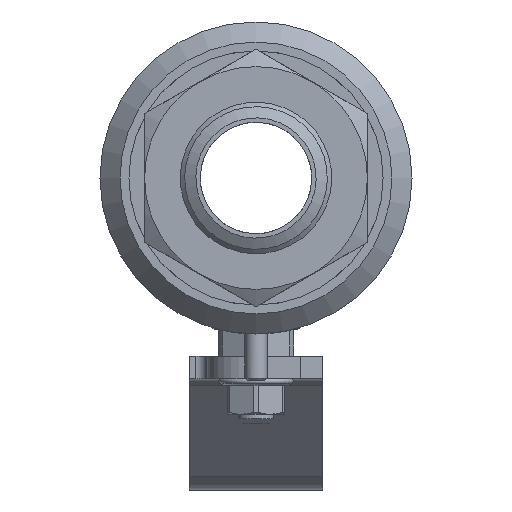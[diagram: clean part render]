
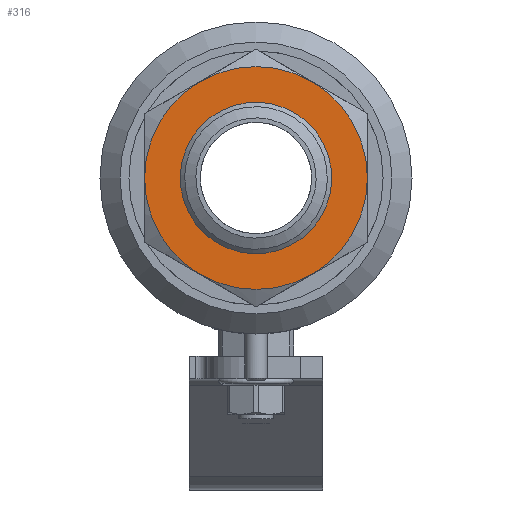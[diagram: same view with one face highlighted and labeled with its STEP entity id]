
A CAD part, left-side view. The second image highlights one B-rep face of the part: STEP entity #316.
In plain terms, the highlighted planar face has unit normal (-1, 0, 0).
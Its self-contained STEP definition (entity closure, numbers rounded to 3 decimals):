
#316=ADVANCED_FACE('',(#2001,#2003),#2005,.T.);
#2001=FACE_BOUND('',#2002,.T.);
#2002=EDGE_LOOP('',(#3292));
#2003=FACE_OUTER_BOUND('',#2004,.T.);
#2004=EDGE_LOOP('',(#3293,#3294,#3295,#3296,#3297,#3298));
#2005=PLANE('',#2006);
#2006=AXIS2_PLACEMENT_3D('',#2007,#2008,#2009);
#2007=CARTESIAN_POINT('',(-79.8,0.,0.));
#2008=DIRECTION('',(-1.,0.,0.));
#2009=DIRECTION('',(0.,0.901,0.435));
#3292=ORIENTED_EDGE('',*,*,#3993,.F.);
#3293=ORIENTED_EDGE('',*,*,#3978,.F.);
#3294=ORIENTED_EDGE('',*,*,#3987,.F.);
#3295=ORIENTED_EDGE('',*,*,#3985,.F.);
#3296=ORIENTED_EDGE('',*,*,#3983,.F.);
#3297=ORIENTED_EDGE('',*,*,#3982,.F.);
#3298=ORIENTED_EDGE('',*,*,#3979,.F.);
#3978=EDGE_CURVE('',#4885,#4850,#4899,.T.);
#3979=EDGE_CURVE('',#4850,#4857,#4900,.T.);
#3982=EDGE_CURVE('',#4857,#4864,#4903,.T.);
#3983=EDGE_CURVE('',#4864,#4871,#4904,.T.);
#3985=EDGE_CURVE('',#4871,#4878,#4906,.T.);
#3987=EDGE_CURVE('',#4878,#4885,#4908,.T.);
#3993=EDGE_CURVE('',#4916,#4916,#4917,.F.);
#4850=VERTEX_POINT('',#9185);
#4857=VERTEX_POINT('',#9245);
#4864=VERTEX_POINT('',#9307);
#4871=VERTEX_POINT('',#9369);
#4878=VERTEX_POINT('',#9431);
#4885=VERTEX_POINT('',#9493);
#4899=CIRCLE('',#9576,25.);
#4900=CIRCLE('',#9580,25.);
#4903=CIRCLE('',#9592,25.);
#4904=CIRCLE('',#9596,25.);
#4906=CIRCLE('',#9604,25.);
#4908=CIRCLE('',#9612,25.);
#4916=VERTEX_POINT('',#9636);
#4917=CIRCLE('',#9637,17.);
#9185=CARTESIAN_POINT('',(-79.8,25.,0.));
#9245=CARTESIAN_POINT('',(-79.8,12.5,21.651));
#9307=CARTESIAN_POINT('',(-79.8,-12.5,21.651));
#9369=CARTESIAN_POINT('',(-79.8,-25.,0.));
#9431=CARTESIAN_POINT('',(-79.8,-12.5,-21.651));
#9493=CARTESIAN_POINT('',(-79.8,12.5,-21.651));
#9576=AXIS2_PLACEMENT_3D('',#9577,#9578,#9579);
#9577=CARTESIAN_POINT('',(-79.8,0.,0.));
#9578=DIRECTION('',(1.,0.,0.));
#9579=DIRECTION('',(0.,0.5,-0.866));
#9580=AXIS2_PLACEMENT_3D('',#9581,#9582,#9583);
#9581=CARTESIAN_POINT('',(-79.8,0.,0.));
#9582=DIRECTION('',(1.,0.,0.));
#9583=DIRECTION('',(0.,1.,0.));
#9592=AXIS2_PLACEMENT_3D('',#9593,#9594,#9595);
#9593=CARTESIAN_POINT('',(-79.8,0.,0.));
#9594=DIRECTION('',(1.,0.,0.));
#9595=DIRECTION('',(0.,0.5,0.866));
#9596=AXIS2_PLACEMENT_3D('',#9597,#9598,#9599);
#9597=CARTESIAN_POINT('',(-79.8,0.,0.));
#9598=DIRECTION('',(1.,0.,0.));
#9599=DIRECTION('',(0.,-0.5,0.866));
#9604=AXIS2_PLACEMENT_3D('',#9605,#9606,#9607);
#9605=CARTESIAN_POINT('',(-79.8,0.,0.));
#9606=DIRECTION('',(1.,0.,0.));
#9607=DIRECTION('',(0.,-1.,0.));
#9612=AXIS2_PLACEMENT_3D('',#9613,#9614,#9615);
#9613=CARTESIAN_POINT('',(-79.8,0.,0.));
#9614=DIRECTION('',(1.,0.,0.));
#9615=DIRECTION('',(0.,-0.5,-0.866));
#9636=CARTESIAN_POINT('',(-79.8,9.156,-14.323));
#9637=AXIS2_PLACEMENT_3D('',#9638,#9639,#9640);
#9638=CARTESIAN_POINT('',(-79.8,0.,0.));
#9639=DIRECTION('',(1.,0.,0.));
#9640=DIRECTION('',(0.,0.539,-0.843));
